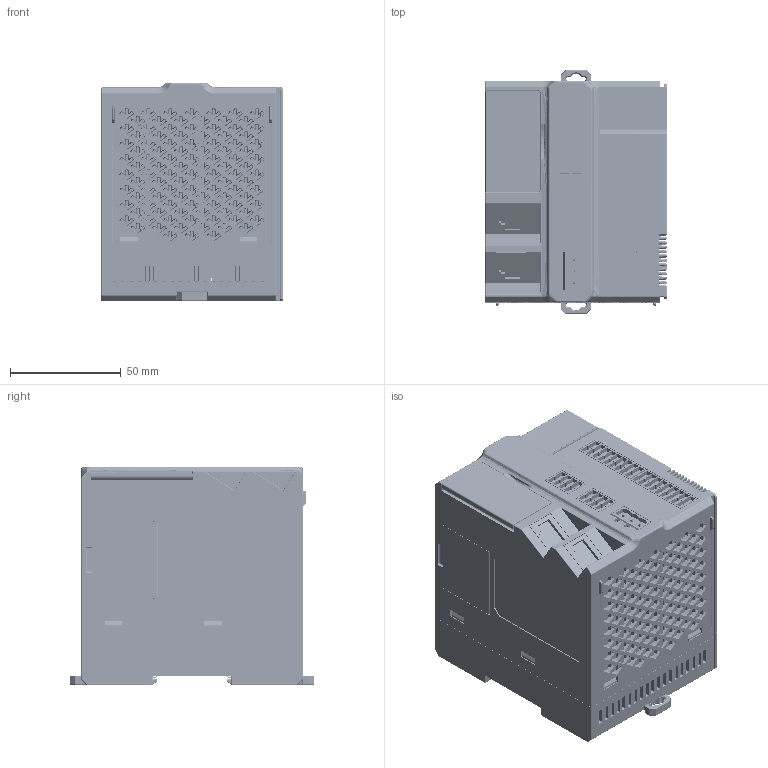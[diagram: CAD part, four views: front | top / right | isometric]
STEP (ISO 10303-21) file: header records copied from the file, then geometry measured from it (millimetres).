
FILE_DESCRIPTION((''),'2;1');
FILE_NAME('PMC500_ASM_85_ASM','2022-04-26T20:06:45',('Lenovo'),(''),'CREO PARAMETRIC BY PTC INC, 2020033','CREO PARAMETRIC BY PTC INC, 2020033','');
FILE_SCHEMA(('CONFIG_CONTROL_DESIGN'));
Products named in the file (39): PMC500-COVER_316; PMC500-BASE_130; PMC500-PCB01_19; CONNECTOR-M_12; CONNECTOR-A-2X25PIN_4; PM02PS-A0-JIEDIPIAN_2; CONNECTOR-A-2X13PIN_3; PMC500-PCB01_ASM_39_ASM; PMC500-PCB02_29; 18PIN-X2_4; CONNECTOR-B-2X25PIN_8; CBT-0810XXF-52-14PIN_3; PMC500-PCB02_ASM_24_ASM; PCB-LED_8; CBT-0810XXM-52-14PIN_2; PCB-LED_ASM_7_ASM; PMC500-PCB03_30; 4PIN-X2_1_1; LED_2; DIANYUANCHAZUO_3; PMC500-PCB03_ASM_30_ASM; PMC500-PCB04_38; RT7-ST-0001-100M_1_4; TYPE-C_13_1; TF-2_1_4; DIAL-SWITCH_1_5; CONNECTOR-B-2X13PIN_2; PMC500-PCB04_ASM_41_ASM; PMC500-PCB_ASM_51_ASM; PMC500-JINGPIAN_3; PMC500-GAIBAN_32; PMC500-DGZ_21; PMC500-DIANCHIGAI_20; PMC500-DGZ02_17; KAKOU-LIANJIEJIAN_2; KAKOU_5; KAKOU-JIEDIPIAN_3; KAKOU_ASM_6_ASM; PMC500_ASM_85_ASM
Assembly tree (51 placements, depth 4):
  PMC500_ASM_85_ASM
    PMC500-COVER_316
    PMC500-BASE_130
    PMC500-PCB_ASM_51_ASM
      PMC500-PCB01_ASM_39_ASM
        PMC500-PCB01_19
        CONNECTOR-M_12
        CONNECTOR-A-2X25PIN_4  x3
        PM02PS-A0-JIEDIPIAN_2
        CONNECTOR-A-2X13PIN_3
      PMC500-PCB02_ASM_24_ASM
        PMC500-PCB02_29
        18PIN-X2_4  x2
        CONNECTOR-B-2X25PIN_8
        CBT-0810XXF-52-14PIN_3
      PCB-LED_ASM_7_ASM
        PCB-LED_8
        CBT-0810XXM-52-14PIN_2
      PMC500-PCB03_ASM_30_ASM
        PMC500-PCB03_30
        4PIN-X2_1_1  x2
        CONNECTOR-B-2X25PIN_8
        LED_2  x6
        DIANYUANCHAZUO_3
      PMC500-PCB04_ASM_41_ASM
        PMC500-PCB04_38
        CONNECTOR-B-2X25PIN_8
        RT7-ST-0001-100M_1_4  x2
        TYPE-C_13_1
        TF-2_1_4
        DIAL-SWITCH_1_5
        CONNECTOR-B-2X13PIN_2
    PMC500-JINGPIAN_3
    PMC500-GAIBAN_32
    PMC500-DGZ_21
    PMC500-DIANCHIGAI_20
    PMC500-DGZ02_17
    KAKOU-LIANJIEJIAN_2
    KAKOU_ASM_6_ASM  x2
      KAKOU_5
      KAKOU-JIEDIPIAN_3
Bounding box: 82 x 110.02 x 98.5 mm (x, y, z)
Volume: 764661.5 mm3; surface area: 260479.3 mm2
Topology: 45 solids, 50 shells, 17971 faces, 47659 edges, 30454 vertices
Faces by surface type: plane 13173, cylinder 3932, bspline 322, cone 251, torus 158, sphere 129, extrusion 6
Entity records: 426530 total; most frequent: CARTESIAN_POINT 97818, ORIENTED_EDGE 71766, DIRECTION 61063, EDGE_CURVE 35885, VECTOR 27359, LINE 27353, VERTEX_POINT 23195, AXIS2_PLACEMENT_3D 16852
